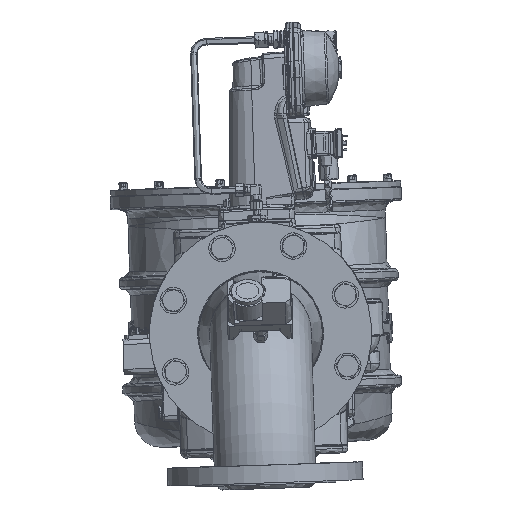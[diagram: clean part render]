
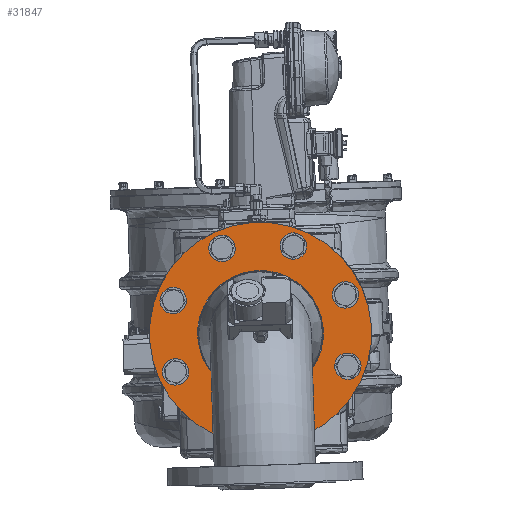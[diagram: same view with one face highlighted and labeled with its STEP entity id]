
A CAD part, top view. The second image highlights one B-rep face of the part: STEP entity #31847.
In plain terms, the highlighted planar face has unit normal (0, -0.004, 1).
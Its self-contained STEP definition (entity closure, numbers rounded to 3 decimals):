
#9384 = CARTESIAN_POINT ( 'NONE',  ( -45.887, -161.133, 162.935 ) ) ;
#12368 = DIRECTION ( 'NONE',  ( -0.936, 0.352, 0.001 ) ) ;
#15238 = DIRECTION ( 'NONE',  ( 0., 0.004, -1. ) ) ;
#26734 = CARTESIAN_POINT ( 'NONE',  ( -82.843, -259.413, 162.565 ) ) ;
#31341 = FACE_BOUND ( 'NONE', #212091, .T. ) ;
#31847 = ADVANCED_FACE ( 'NONE', ( #66206, #293419, #243954, #118513, #162325, #208902, #468231, #473923, #31341, #386635 ), #159457, .T. ) ;
#36677 = CIRCLE ( 'NONE', #45767, 9. ) ;
#39865 = AXIS2_PLACEMENT_3D ( 'NONE', #85549, #446819, #400336 ) ;
#42791 = ORIENTED_EDGE ( 'NONE', *, *, #49489, .T. ) ;
#45767 = AXIS2_PLACEMENT_3D ( 'NONE', #55908, #233570, #12368 ) ;
#47371 = ORIENTED_EDGE ( 'NONE', *, *, #48027, .T. ) ;
#48027 = EDGE_CURVE ( 'NONE', #453142, #453142, #36677, .T. ) ;
#49163 = EDGE_LOOP ( 'NONE', ( #176386 ) ) ;
#49489 = EDGE_CURVE ( 'NONE', #234665, #234665, #86102, .T. ) ;
#51957 = DIRECTION ( 'NONE',  ( 0.413, -0.911, -0.004 ) ) ;
#55908 = CARTESIAN_POINT ( 'NONE',  ( -8.931, -62.852, 163.306 ) ) ;
#61927 = ORIENTED_EDGE ( 'NONE', *, *, #458227, .T. ) ;
#66206 = FACE_BOUND ( 'NONE', #130599, .T. ) ;
#72869 = DIRECTION ( 'NONE',  ( 0., 0.004, -1. ) ) ;
#74809 = CARTESIAN_POINT ( 'NONE',  ( -45.887, -161.133, 162.935 ) ) ;
#76500 = CIRCLE ( 'NONE', #514078, 9. ) ;
#83491 = CARTESIAN_POINT ( 'NONE',  ( 55.562, -189.664, 162.813 ) ) ;
#85549 = CARTESIAN_POINT ( 'NONE',  ( -144.168, -124.177, 163.089 ) ) ;
#86102 = CIRCLE ( 'NONE', #495464, 70.75 ) ;
#106782 = CARTESIAN_POINT ( 'NONE',  ( 49.741, -117.769, 163.089 ) ) ;
#108231 = VERTEX_POINT ( 'NONE', #548267 ) ;
#113810 = CIRCLE ( 'NONE', #39865, 9. ) ;
#117447 = CARTESIAN_POINT ( 'NONE',  ( 5.674, -253.042, 162.578 ) ) ;
#118513 = FACE_BOUND ( 'NONE', #284333, .T. ) ;
#118727 = VERTEX_POINT ( 'NONE', #83491 ) ;
#130599 = EDGE_LOOP ( 'NONE', ( #562698 ) ) ;
#138576 = DIRECTION ( 'NONE',  ( 0.413, -0.911, -0.004 ) ) ;
#138912 = CARTESIAN_POINT ( 'NONE',  ( -137.797, -212.693, 162.75 ) ) ;
#139580 = EDGE_CURVE ( 'NONE', #512130, #512130, #113810, .T. ) ;
#141453 = CIRCLE ( 'NONE', #401854, 9. ) ;
#143768 = CIRCLE ( 'NONE', #162506, 9. ) ;
#144814 = DIRECTION ( 'NONE',  ( -0.413, 0.911, 0.004 ) ) ;
#151577 = EDGE_CURVE ( 'NONE', #118727, #118727, #546641, .T. ) ;
#159457 = PLANE ( 'NONE',  #276293 ) ;
#162325 = FACE_BOUND ( 'NONE', #486830, .T. ) ;
#162506 = AXIS2_PLACEMENT_3D ( 'NONE', #223804, #212383, #51957 ) ;
#166843 = AXIS2_PLACEMENT_3D ( 'NONE', #168923, #72869, #378981 ) ;
#168923 = CARTESIAN_POINT ( 'NONE',  ( -2.523, -256.759, 162.565 ) ) ;
#174385 = AXIS2_PLACEMENT_3D ( 'NONE', #244954, #15238, #507190 ) ;
#176386 = ORIENTED_EDGE ( 'NONE', *, *, #259010, .T. ) ;
#176394 = CIRCLE ( 'NONE', #166843, 9. ) ;
#176927 = VERTEX_POINT ( 'NONE', #138912 ) ;
#203589 = VERTEX_POINT ( 'NONE', #247174 ) ;
#208902 = FACE_BOUND ( 'NONE', #49163, .T. ) ;
#211110 = CARTESIAN_POINT ( 'NONE',  ( -89.25, -65.506, 163.306 ) ) ;
#212091 = EDGE_LOOP ( 'NONE', ( #42791 ) ) ;
#212383 = DIRECTION ( 'NONE',  ( 0., 0.004, -1. ) ) ;
#215321 = ORIENTED_EDGE ( 'NONE', *, *, #344988, .F. ) ;
#223804 = CARTESIAN_POINT ( 'NONE',  ( -141.514, -204.496, 162.782 ) ) ;
#231197 = AXIS2_PLACEMENT_3D ( 'NONE', #9384, #419788, #370454 ) ;
#233570 = DIRECTION ( 'NONE',  ( 0., 0.004, -1. ) ) ;
#234665 = VERTEX_POINT ( 'NONE', #409539 ) ;
#240420 = ORIENTED_EDGE ( 'NONE', *, *, #244032, .T. ) ;
#240822 = DIRECTION ( 'NONE',  ( 0., 0.004, -1. ) ) ;
#243443 = EDGE_CURVE ( 'NONE', #203589, #203589, #141453, .T. ) ;
#243954 = FACE_BOUND ( 'NONE', #415990, .T. ) ;
#244032 = EDGE_CURVE ( 'NONE', #337430, #337430, #76500, .T. ) ;
#244954 = CARTESIAN_POINT ( 'NONE',  ( 52.395, -198.088, 162.782 ) ) ;
#247174 = CARTESIAN_POINT ( 'NONE',  ( -74.419, -262.581, 162.551 ) ) ;
#259010 = EDGE_CURVE ( 'NONE', #176927, #176927, #143768, .T. ) ;
#276293 = AXIS2_PLACEMENT_3D ( 'NONE', #74809, #575676, #138576 ) ;
#276355 = EDGE_LOOP ( 'NONE', ( #240420 ) ) ;
#280482 = EDGE_LOOP ( 'NONE', ( #215321 ) ) ;
#281360 = EDGE_LOOP ( 'NONE', ( #61927 ) ) ;
#282389 = EDGE_LOOP ( 'NONE', ( #509546 ) ) ;
#284333 = EDGE_LOOP ( 'NONE', ( #450940 ) ) ;
#287864 = CARTESIAN_POINT ( 'NONE',  ( -147.336, -132.601, 163.057 ) ) ;
#293419 = FACE_BOUND ( 'NONE', #276355, .T. ) ;
#315271 = VERTEX_POINT ( 'NONE', #490110 ) ;
#330837 = AXIS2_PLACEMENT_3D ( 'NONE', #211110, #481852, #569275 ) ;
#336849 = EDGE_CURVE ( 'NONE', #315271, #315271, #368380, .T. ) ;
#337430 = VERTEX_POINT ( 'NONE', #515108 ) ;
#344988 = EDGE_CURVE ( 'NONE', #108231, #108231, #482276, .T. ) ;
#365625 = DIRECTION ( 'NONE',  ( 0., 0.004, -1. ) ) ;
#368380 = CIRCLE ( 'NONE', #330837, 9. ) ;
#370454 = DIRECTION ( 'NONE',  ( -0.413, 0.911, 0.004 ) ) ;
#378981 = DIRECTION ( 'NONE',  ( 0.911, 0.413, 0.001 ) ) ;
#382039 = DIRECTION ( 'NONE',  ( 0., 0.004, -1. ) ) ;
#386635 = FACE_OUTER_BOUND ( 'NONE', #280482, .T. ) ;
#400209 = ORIENTED_EDGE ( 'NONE', *, *, #139580, .T. ) ;
#400336 = DIRECTION ( 'NONE',  ( -0.352, -0.936, -0.004 ) ) ;
#401854 = AXIS2_PLACEMENT_3D ( 'NONE', #26734, #382039, #477857 ) ;
#409539 = CARTESIAN_POINT ( 'NONE',  ( -75.106, -96.699, 163.185 ) ) ;
#415990 = EDGE_LOOP ( 'NONE', ( #47371 ) ) ;
#419788 = DIRECTION ( 'NONE',  ( 0., 0.004, -1. ) ) ;
#440562 = VERTEX_POINT ( 'NONE', #117447 ) ;
#446819 = DIRECTION ( 'NONE',  ( 0., 0.004, -1. ) ) ;
#450940 = ORIENTED_EDGE ( 'NONE', *, *, #336849, .T. ) ;
#453142 = VERTEX_POINT ( 'NONE', #534814 ) ;
#458227 = EDGE_CURVE ( 'NONE', #440562, #440562, #176394, .T. ) ;
#468231 = FACE_BOUND ( 'NONE', #282389, .T. ) ;
#473923 = FACE_BOUND ( 'NONE', #281360, .T. ) ;
#477857 = DIRECTION ( 'NONE',  ( 0.936, -0.352, -0.001 ) ) ;
#481852 = DIRECTION ( 'NONE',  ( 0., 0.004, -1. ) ) ;
#482276 = CIRCLE ( 'NONE', #231197, 125. ) ;
#486830 = EDGE_LOOP ( 'NONE', ( #400209 ) ) ;
#490110 = CARTESIAN_POINT ( 'NONE',  ( -97.447, -69.223, 163.292 ) ) ;
#493716 = CARTESIAN_POINT ( 'NONE',  ( -45.887, -161.133, 162.935 ) ) ;
#495464 = AXIS2_PLACEMENT_3D ( 'NONE', #493716, #365625, #540358 ) ;
#507190 = DIRECTION ( 'NONE',  ( 0.352, 0.936, 0.004 ) ) ;
#509546 = ORIENTED_EDGE ( 'NONE', *, *, #243443, .T. ) ;
#512130 = VERTEX_POINT ( 'NONE', #287864 ) ;
#514078 = AXIS2_PLACEMENT_3D ( 'NONE', #106782, #240822, #144814 ) ;
#515108 = CARTESIAN_POINT ( 'NONE',  ( 46.024, -109.573, 163.12 ) ) ;
#534814 = CARTESIAN_POINT ( 'NONE',  ( -17.355, -59.684, 163.319 ) ) ;
#540358 = DIRECTION ( 'NONE',  ( -0.413, 0.911, 0.004 ) ) ;
#546641 = CIRCLE ( 'NONE', #174385, 9. ) ;
#548267 = CARTESIAN_POINT ( 'NONE',  ( -97.51, -47.291, 163.376 ) ) ;
#562698 = ORIENTED_EDGE ( 'NONE', *, *, #151577, .T. ) ;
#569275 = DIRECTION ( 'NONE',  ( -0.911, -0.413, -0.001 ) ) ;
#575676 = DIRECTION ( 'NONE',  ( 0., -0.004, 1. ) ) ;
